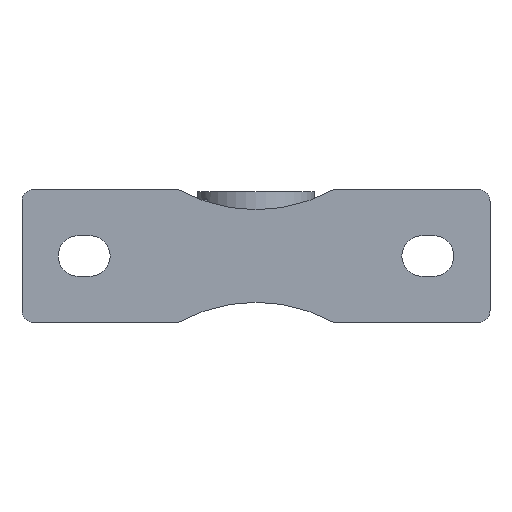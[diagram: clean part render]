
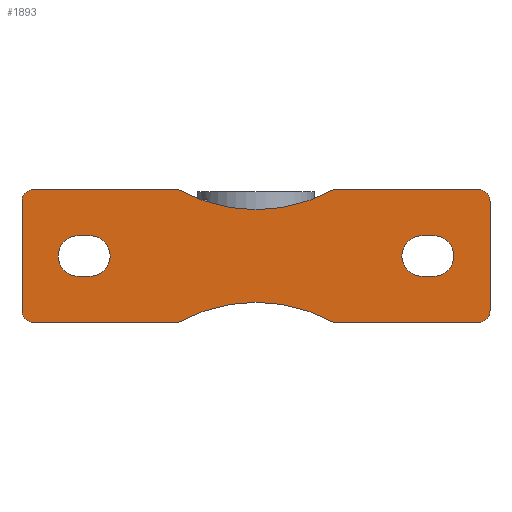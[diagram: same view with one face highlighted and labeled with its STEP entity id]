
A CAD part, front view. The second image highlights one B-rep face of the part: STEP entity #1893.
In plain terms, the highlighted planar face has unit normal (0, -1, 0).
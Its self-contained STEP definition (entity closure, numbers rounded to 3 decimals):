
#84=FACE_BOUND('',#267,.T.);
#85=FACE_BOUND('',#268,.T.);
#104=PLANE('',#2092);
#159=FACE_OUTER_BOUND('',#266,.T.);
#266=EDGE_LOOP('',(#1233,#1234,#1235,#1236,#1237,#1238,#1239,#1240,#1241,
#1242,#1243,#1244));
#267=EDGE_LOOP('',(#1245,#1246,#1247,#1248));
#268=EDGE_LOOP('',(#1249,#1250,#1251,#1252));
#427=LINE('',#2893,#549);
#428=LINE('',#2897,#550);
#429=LINE('',#2901,#551);
#430=LINE('',#2905,#552);
#431=LINE('',#2909,#553);
#432=LINE('',#2912,#554);
#433=LINE('',#2917,#555);
#434=LINE('',#2920,#556);
#435=LINE('',#2925,#557);
#436=LINE('',#2928,#558);
#549=VECTOR('',#2313,10.);
#550=VECTOR('',#2316,10.);
#551=VECTOR('',#2319,10.);
#552=VECTOR('',#2322,10.);
#553=VECTOR('',#2325,10.);
#554=VECTOR('',#2328,10.);
#555=VECTOR('',#2331,10.);
#556=VECTOR('',#2334,10.);
#557=VECTOR('',#2337,10.);
#558=VECTOR('',#2340,10.);
#672=CIRCLE('',#2093,4.);
#673=CIRCLE('',#2094,55.);
#674=CIRCLE('',#2095,4.);
#675=CIRCLE('',#2096,4.);
#676=CIRCLE('',#2097,55.);
#677=CIRCLE('',#2098,4.);
#678=CIRCLE('',#2099,7.);
#679=CIRCLE('',#2100,7.);
#680=CIRCLE('',#2101,7.);
#681=CIRCLE('',#2102,7.);
#766=VERTEX_POINT('',#2889);
#767=VERTEX_POINT('',#2890);
#768=VERTEX_POINT('',#2892);
#769=VERTEX_POINT('',#2894);
#770=VERTEX_POINT('',#2896);
#771=VERTEX_POINT('',#2898);
#772=VERTEX_POINT('',#2900);
#773=VERTEX_POINT('',#2902);
#774=VERTEX_POINT('',#2904);
#775=VERTEX_POINT('',#2906);
#776=VERTEX_POINT('',#2908);
#777=VERTEX_POINT('',#2910);
#778=VERTEX_POINT('',#2913);
#779=VERTEX_POINT('',#2914);
#780=VERTEX_POINT('',#2916);
#781=VERTEX_POINT('',#2918);
#782=VERTEX_POINT('',#2921);
#783=VERTEX_POINT('',#2922);
#784=VERTEX_POINT('',#2924);
#785=VERTEX_POINT('',#2926);
#954=EDGE_CURVE('',#766,#767,#672,.T.);
#955=EDGE_CURVE('',#766,#768,#427,.T.);
#956=EDGE_CURVE('',#768,#769,#673,.T.);
#957=EDGE_CURVE('',#769,#770,#428,.T.);
#958=EDGE_CURVE('',#771,#770,#674,.T.);
#959=EDGE_CURVE('',#771,#772,#429,.T.);
#960=EDGE_CURVE('',#773,#772,#675,.T.);
#961=EDGE_CURVE('',#774,#773,#430,.T.);
#962=EDGE_CURVE('',#774,#775,#676,.T.);
#963=EDGE_CURVE('',#776,#775,#431,.T.);
#964=EDGE_CURVE('',#777,#776,#677,.T.);
#965=EDGE_CURVE('',#777,#767,#432,.T.);
#966=EDGE_CURVE('',#778,#779,#678,.T.);
#967=EDGE_CURVE('',#779,#780,#433,.T.);
#968=EDGE_CURVE('',#780,#781,#679,.T.);
#969=EDGE_CURVE('',#781,#778,#434,.T.);
#970=EDGE_CURVE('',#782,#783,#680,.T.);
#971=EDGE_CURVE('',#783,#784,#435,.T.);
#972=EDGE_CURVE('',#784,#785,#681,.T.);
#973=EDGE_CURVE('',#785,#782,#436,.T.);
#1233=ORIENTED_EDGE('',*,*,#954,.F.);
#1234=ORIENTED_EDGE('',*,*,#955,.T.);
#1235=ORIENTED_EDGE('',*,*,#956,.T.);
#1236=ORIENTED_EDGE('',*,*,#957,.T.);
#1237=ORIENTED_EDGE('',*,*,#958,.F.);
#1238=ORIENTED_EDGE('',*,*,#959,.T.);
#1239=ORIENTED_EDGE('',*,*,#960,.F.);
#1240=ORIENTED_EDGE('',*,*,#961,.F.);
#1241=ORIENTED_EDGE('',*,*,#962,.T.);
#1242=ORIENTED_EDGE('',*,*,#963,.F.);
#1243=ORIENTED_EDGE('',*,*,#964,.F.);
#1244=ORIENTED_EDGE('',*,*,#965,.T.);
#1245=ORIENTED_EDGE('',*,*,#966,.T.);
#1246=ORIENTED_EDGE('',*,*,#967,.T.);
#1247=ORIENTED_EDGE('',*,*,#968,.T.);
#1248=ORIENTED_EDGE('',*,*,#969,.T.);
#1249=ORIENTED_EDGE('',*,*,#970,.T.);
#1250=ORIENTED_EDGE('',*,*,#971,.T.);
#1251=ORIENTED_EDGE('',*,*,#972,.T.);
#1252=ORIENTED_EDGE('',*,*,#973,.T.);
#1893=ADVANCED_FACE('',(#159,#84,#85),#104,.F.);
#2092=AXIS2_PLACEMENT_3D('',#2888,#2309,#2310);
#2093=AXIS2_PLACEMENT_3D('',#2891,#2311,#2312);
#2094=AXIS2_PLACEMENT_3D('',#2895,#2314,#2315);
#2095=AXIS2_PLACEMENT_3D('',#2899,#2317,#2318);
#2096=AXIS2_PLACEMENT_3D('',#2903,#2320,#2321);
#2097=AXIS2_PLACEMENT_3D('',#2907,#2323,#2324);
#2098=AXIS2_PLACEMENT_3D('',#2911,#2326,#2327);
#2099=AXIS2_PLACEMENT_3D('',#2915,#2329,#2330);
#2100=AXIS2_PLACEMENT_3D('',#2919,#2332,#2333);
#2101=AXIS2_PLACEMENT_3D('',#2923,#2335,#2336);
#2102=AXIS2_PLACEMENT_3D('',#2927,#2338,#2339);
#2309=DIRECTION('center_axis',(0.,1.,0.));
#2310=DIRECTION('ref_axis',(0.,0.,1.));
#2311=DIRECTION('center_axis',(0.,1.,0.));
#2312=DIRECTION('ref_axis',(-0.707,0.,-0.707));
#2313=DIRECTION('',(1.,0.,0.));
#2314=DIRECTION('center_axis',(0.,1.,0.));
#2315=DIRECTION('ref_axis',(1.,0.,0.));
#2316=DIRECTION('',(1.,0.,0.));
#2317=DIRECTION('center_axis',(0.,1.,0.));
#2318=DIRECTION('ref_axis',(0.707,0.,-0.707));
#2319=DIRECTION('',(0.,0.,1.));
#2320=DIRECTION('center_axis',(0.,1.,0.));
#2321=DIRECTION('ref_axis',(0.707,0.,0.707));
#2322=DIRECTION('',(1.,0.,0.));
#2323=DIRECTION('center_axis',(0.,1.,0.));
#2324=DIRECTION('ref_axis',(1.,0.,0.));
#2325=DIRECTION('',(1.,0.,0.));
#2326=DIRECTION('center_axis',(0.,1.,0.));
#2327=DIRECTION('ref_axis',(-0.707,0.,0.707));
#2328=DIRECTION('',(0.,0.,-1.));
#2329=DIRECTION('center_axis',(0.,1.,0.));
#2330=DIRECTION('ref_axis',(0.,0.,1.));
#2331=DIRECTION('',(1.,0.,0.));
#2332=DIRECTION('center_axis',(0.,1.,0.));
#2333=DIRECTION('ref_axis',(0.,0.,-1.));
#2334=DIRECTION('',(-1.,0.,0.));
#2335=DIRECTION('center_axis',(0.,1.,0.));
#2336=DIRECTION('ref_axis',(0.,0.,1.));
#2337=DIRECTION('',(-1.,0.,0.));
#2338=DIRECTION('center_axis',(0.,1.,0.));
#2339=DIRECTION('ref_axis',(0.,0.,-1.));
#2340=DIRECTION('',(1.,0.,0.));
#2888=CARTESIAN_POINT('Origin',(-40.1,-42.9,0.));
#2889=CARTESIAN_POINT('',(-77.,-42.9,-23.));
#2890=CARTESIAN_POINT('',(-81.,-42.9,-19.));
#2891=CARTESIAN_POINT('Origin',(-77.,-42.9,-19.));
#2892=CARTESIAN_POINT('',(-26.851,-42.9,-23.));
#2893=CARTESIAN_POINT('',(-81.,-42.9,-23.));
#2894=CARTESIAN_POINT('',(26.851,-42.9,-23.));
#2895=CARTESIAN_POINT('Origin',(0.,-42.9,-71.));
#2896=CARTESIAN_POINT('',(77.,-42.9,-23.));
#2897=CARTESIAN_POINT('',(-81.,-42.9,-23.));
#2898=CARTESIAN_POINT('',(81.,-42.9,-19.));
#2899=CARTESIAN_POINT('Origin',(77.,-42.9,-19.));
#2900=CARTESIAN_POINT('',(81.,-42.9,19.));
#2901=CARTESIAN_POINT('',(81.,-42.9,0.));
#2902=CARTESIAN_POINT('',(77.,-42.9,23.));
#2903=CARTESIAN_POINT('Origin',(77.,-42.9,19.));
#2904=CARTESIAN_POINT('',(26.851,-42.9,23.));
#2905=CARTESIAN_POINT('',(-10.,-42.9,23.));
#2906=CARTESIAN_POINT('',(-26.851,-42.9,23.));
#2907=CARTESIAN_POINT('Origin',(0.,-42.9,71.));
#2908=CARTESIAN_POINT('',(-77.,-42.9,23.));
#2909=CARTESIAN_POINT('',(-10.,-42.9,23.));
#2910=CARTESIAN_POINT('',(-81.,-42.9,19.));
#2911=CARTESIAN_POINT('Origin',(-77.,-42.9,19.));
#2912=CARTESIAN_POINT('',(-81.,-42.9,0.));
#2913=CARTESIAN_POINT('',(57.5,-42.9,-7.));
#2914=CARTESIAN_POINT('',(57.5,-42.9,7.));
#2915=CARTESIAN_POINT('Origin',(57.5,-42.9,0.));
#2916=CARTESIAN_POINT('',(61.5,-42.9,7.));
#2917=CARTESIAN_POINT('',(10.7,-42.9,7.));
#2918=CARTESIAN_POINT('',(61.5,-42.9,-7.));
#2919=CARTESIAN_POINT('Origin',(61.5,-42.9,0.));
#2920=CARTESIAN_POINT('',(8.7,-42.9,-7.));
#2921=CARTESIAN_POINT('',(-57.5,-42.9,7.));
#2922=CARTESIAN_POINT('',(-57.5,-42.9,-7.));
#2923=CARTESIAN_POINT('Origin',(-57.5,-42.9,0.));
#2924=CARTESIAN_POINT('',(-61.5,-42.9,-7.));
#2925=CARTESIAN_POINT('',(-50.8,-42.9,-7.));
#2926=CARTESIAN_POINT('',(-61.5,-42.9,7.));
#2927=CARTESIAN_POINT('Origin',(-61.5,-42.9,0.));
#2928=CARTESIAN_POINT('',(-48.8,-42.9,7.));
